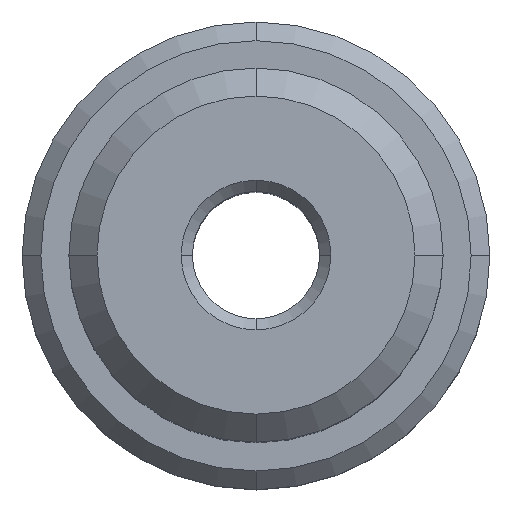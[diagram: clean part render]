
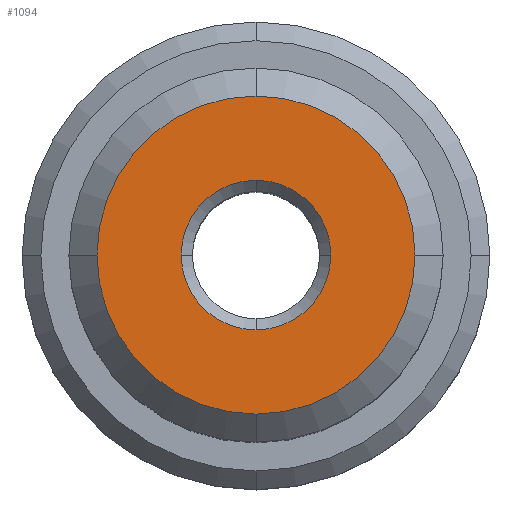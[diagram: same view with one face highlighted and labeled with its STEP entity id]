
A CAD part, top view. The second image highlights one B-rep face of the part: STEP entity #1094.
In plain terms, the highlighted planar face has unit normal (0, 0, 1).
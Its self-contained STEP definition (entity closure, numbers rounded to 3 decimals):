
#172=CARTESIAN_POINT('',(4.,0.,23.0));
#173=VERTEX_POINT('',#172);
#181=CARTESIAN_POINT('',(0.0,-4.,23.));
#182=VERTEX_POINT('',#181);
#189=CARTESIAN_POINT('',(0.0,0.0,23.));
#190=DIRECTION('',(0.0,0.0,1.0));
#191=DIRECTION('',(0.0,-1.0,0.0));
#192=AXIS2_PLACEMENT_3D('',#189,#190,#191);
#193=CIRCLE('',#192,4.);
#194=EDGE_CURVE('',#182,#173,#193,.T.);
#206=CARTESIAN_POINT('',(-8.5,0.,23.));
#207=VERTEX_POINT('',#206);
#223=CARTESIAN_POINT('',(0.0,-8.5,23.));
#224=VERTEX_POINT('',#223);
#231=CARTESIAN_POINT('',(0.0,0.0,23.));
#232=DIRECTION('',(0.0,0.0,1.0));
#233=DIRECTION('',(0.0,-1.0,0.0));
#234=AXIS2_PLACEMENT_3D('',#231,#232,#233);
#235=CIRCLE('',#234,8.5);
#236=EDGE_CURVE('',#207,#224,#235,.T.);
#634=CARTESIAN_POINT('',(8.5,0.,23.));
#635=VERTEX_POINT('',#634);
#649=CARTESIAN_POINT('',(0.,8.5,23.));
#650=VERTEX_POINT('',#649);
#657=CARTESIAN_POINT('',(0.0,0.0,23.));
#658=DIRECTION('',(0.0,0.0,1.0));
#659=DIRECTION('',(0.0,-1.0,0.0));
#660=AXIS2_PLACEMENT_3D('',#657,#658,#659);
#661=CIRCLE('',#660,8.5);
#662=EDGE_CURVE('',#635,#650,#661,.T.);
#674=CARTESIAN_POINT('',(-4.,0.,23.0));
#675=VERTEX_POINT('',#674);
#691=CARTESIAN_POINT('',(0.,4.,23.));
#692=VERTEX_POINT('',#691);
#699=CARTESIAN_POINT('',(0.0,0.0,23.));
#700=DIRECTION('',(0.0,0.0,1.0));
#701=DIRECTION('',(0.0,-1.0,0.0));
#702=AXIS2_PLACEMENT_3D('',#699,#700,#701);
#703=CIRCLE('',#702,4.);
#704=EDGE_CURVE('',#692,#675,#703,.T.);
#771=CARTESIAN_POINT('',(0.0,0.0,23.));
#772=DIRECTION('',(0.0,0.0,1.0));
#773=DIRECTION('',(0.0,-1.0,0.0));
#774=AXIS2_PLACEMENT_3D('',#771,#772,#773);
#775=CIRCLE('',#774,4.);
#776=EDGE_CURVE('',#675,#182,#775,.T.);
#789=CARTESIAN_POINT('',(0.0,0.0,23.));
#790=DIRECTION('',(0.0,0.0,1.0));
#791=DIRECTION('',(0.0,-1.0,0.0));
#792=AXIS2_PLACEMENT_3D('',#789,#790,#791);
#793=CIRCLE('',#792,8.5);
#794=EDGE_CURVE('',#224,#635,#793,.T.);
#1059=CARTESIAN_POINT('',(0.0,0.0,23.));
#1060=DIRECTION('',(0.0,0.0,1.0));
#1061=DIRECTION('',(0.0,-1.0,0.0));
#1062=AXIS2_PLACEMENT_3D('',#1059,#1060,#1061);
#1063=CIRCLE('',#1062,8.5);
#1064=EDGE_CURVE('',#650,#207,#1063,.T.);
#1071=CARTESIAN_POINT('',(-9.35,-9.35,23.));
#1072=DIRECTION('',(0.0,0.0,1.0));
#1073=DIRECTION('',(1.0,0.0,0.0));
#1074=AXIS2_PLACEMENT_3D('',#1071,#1072,#1073);
#1075=PLANE('',#1074);
#1076=ORIENTED_EDGE('',*,*,#794,.T.);
#1077=ORIENTED_EDGE('',*,*,#662,.T.);
#1078=ORIENTED_EDGE('',*,*,#1064,.T.);
#1079=ORIENTED_EDGE('',*,*,#236,.T.);
#1080=EDGE_LOOP('',(#1076,#1077,#1078,#1079));
#1081=FACE_OUTER_BOUND('',#1080,.T.);
#1082=ORIENTED_EDGE('',*,*,#194,.F.);
#1083=ORIENTED_EDGE('',*,*,#776,.F.);
#1084=ORIENTED_EDGE('',*,*,#704,.F.);
#1085=CARTESIAN_POINT('',(0.0,0.0,23.));
#1086=DIRECTION('',(0.0,0.0,1.0));
#1087=DIRECTION('',(0.0,-1.0,0.0));
#1088=AXIS2_PLACEMENT_3D('',#1085,#1086,#1087);
#1089=CIRCLE('',#1088,4.);
#1090=EDGE_CURVE('',#173,#692,#1089,.T.);
#1091=ORIENTED_EDGE('',*,*,#1090,.F.);
#1092=EDGE_LOOP('',(#1082,#1083,#1084,#1091));
#1093=FACE_BOUND('',#1092,.T.);
#1094=ADVANCED_FACE('',(#1081,#1093),#1075,.T.);
